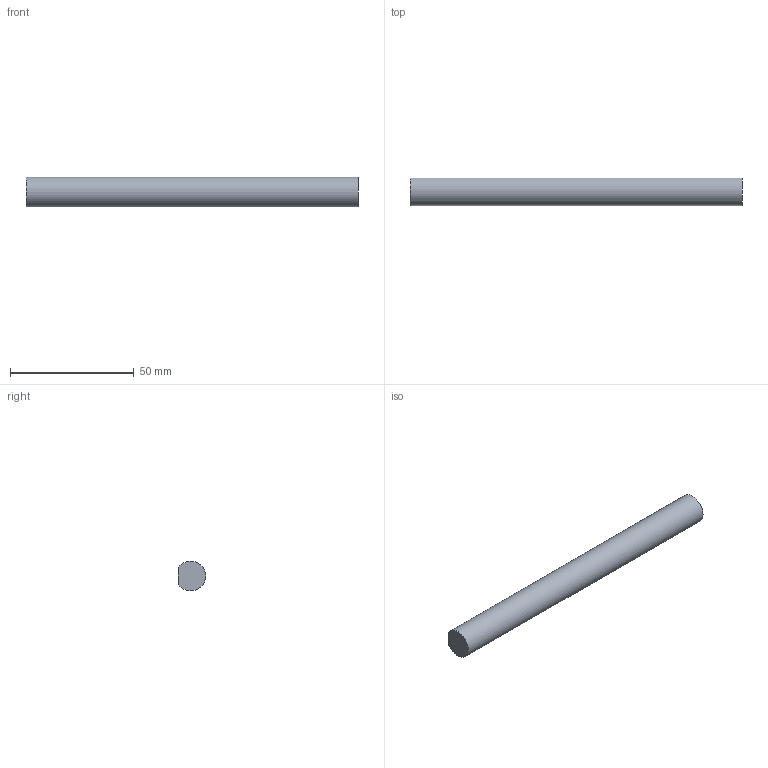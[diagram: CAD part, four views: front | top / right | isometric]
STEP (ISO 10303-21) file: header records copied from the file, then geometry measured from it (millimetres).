
FILE_DESCRIPTION(('Open CASCADE Model'),'2;1');
FILE_NAME('Open CASCADE Shape Model','2026-10-06T19:56:11',('Author'),( 'Open CASCADE'),'Open CASCADE STEP processor 7.9','Open CASCADE 7.9' ,'Unknown');
FILE_SCHEMA(('AUTOMOTIVE_DESIGN { 1 0 10303 214 1 1 1 1 }'));
Length unit declared in the file: millimetre
Products named in the file (1): Open CASCADE STEP translator 7.9 48
Bounding box: 134 x 11 x 11.99 mm (x, y, z)
Volume: 14551.8 mm3; surface area: 5215.9 mm2
Topology: 1 solids, 1 shells, 4 faces, 6 edges, 4 vertices
Faces by surface type: plane 3, cylinder 1
Entity records: 172 total; most frequent: CARTESIAN_POINT 35, DIRECTION 22, ORIENTED_EDGE 12, PCURVE 12, DEFINITIONAL_REPRESENTATION 12, B_SPLINE_CURVE_WITH_KNOTS 8, AXIS2_PLACEMENT_3D 7, EDGE_CURVE 6
